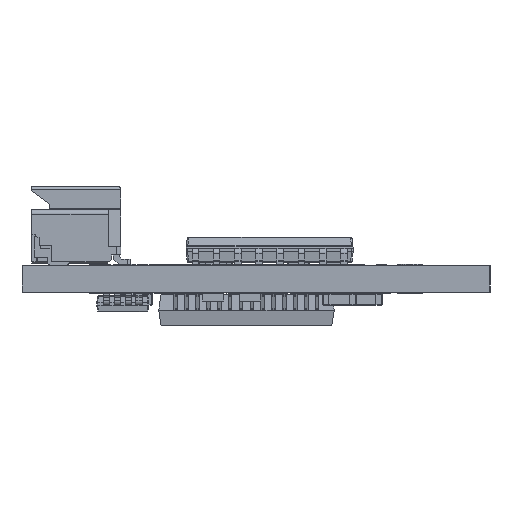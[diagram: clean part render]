
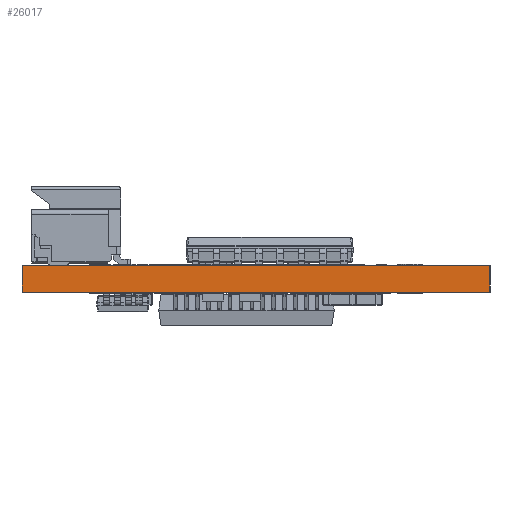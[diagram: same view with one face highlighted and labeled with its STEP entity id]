
A CAD part, left-side view. The second image highlights one B-rep face of the part: STEP entity #26017.
In plain terms, the highlighted planar face has unit normal (-1, 0, 0).
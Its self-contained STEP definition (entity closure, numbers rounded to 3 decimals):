
#8357 = VERTEX_POINT ( 'NONE', #172765 ) ;
#12513 = VECTOR ( 'NONE', #169511, 1000. ) ;
#15463 = VERTEX_POINT ( 'NONE', #68095 ) ;
#26017 = ADVANCED_FACE ( 'NONE', ( #51802 ), #28117, .T. ) ;
#28117 = PLANE ( 'NONE',  #36166 ) ;
#31217 = VECTOR ( 'NONE', #141568, 1000. ) ;
#34424 = EDGE_LOOP ( 'NONE', ( #108764, #120645, #36845, #91816 ) ) ;
#34426 = CARTESIAN_POINT ( 'NONE',  ( -14.013, 0.003, -1.612 ) ) ;
#35564 = DIRECTION ( 'NONE',  ( 0., 0., 1. ) ) ;
#36166 = AXIS2_PLACEMENT_3D ( 'NONE', #162072, #55474, #81807 ) ;
#36845 = ORIENTED_EDGE ( 'NONE', *, *, #171523, .T. ) ;
#37242 = CARTESIAN_POINT ( 'NONE',  ( -14.013, 0.003, -0.012 ) ) ;
#45650 = VECTOR ( 'NONE', #35564, 1000. ) ;
#51802 = FACE_OUTER_BOUND ( 'NONE', #34424, .T. ) ;
#52150 = VECTOR ( 'NONE', #113268, 1000. ) ;
#55474 = DIRECTION ( 'NONE',  ( -1., 0., 0. ) ) ;
#64139 = EDGE_CURVE ( 'NONE', #8357, #15463, #146467, .T. ) ;
#68095 = CARTESIAN_POINT ( 'NONE',  ( -14.013, -13.997, -0.012 ) ) ;
#68185 = EDGE_CURVE ( 'NONE', #147812, #148278, #98184, .T. ) ;
#73831 = CARTESIAN_POINT ( 'NONE',  ( -14.013, 14.003, -1.612 ) ) ;
#81807 = DIRECTION ( 'NONE',  ( 0., 0., -1. ) ) ;
#91816 = ORIENTED_EDGE ( 'NONE', *, *, #64139, .F. ) ;
#98184 = LINE ( 'NONE', #34426, #31217 ) ;
#108764 = ORIENTED_EDGE ( 'NONE', *, *, #134697, .T. ) ;
#113268 = DIRECTION ( 'NONE',  ( 0., 0., -1. ) ) ;
#113855 = CARTESIAN_POINT ( 'NONE',  ( -14.013, 14.003, -0.812 ) ) ;
#120645 = ORIENTED_EDGE ( 'NONE', *, *, #68185, .T. ) ;
#127655 = LINE ( 'NONE', #113855, #52150 ) ;
#130387 = CARTESIAN_POINT ( 'NONE',  ( -14.013, -13.997, -0.812 ) ) ;
#134697 = EDGE_CURVE ( 'NONE', #8357, #147812, #127655, .T. ) ;
#141568 = DIRECTION ( 'NONE',  ( 0., -1., 0. ) ) ;
#146467 = LINE ( 'NONE', #37242, #12513 ) ;
#147812 = VERTEX_POINT ( 'NONE', #73831 ) ;
#148278 = VERTEX_POINT ( 'NONE', #154964 ) ;
#152480 = LINE ( 'NONE', #130387, #45650 ) ;
#154964 = CARTESIAN_POINT ( 'NONE',  ( -14.013, -13.997, -1.612 ) ) ;
#162072 = CARTESIAN_POINT ( 'NONE',  ( -14.013, 14.003, -0.012 ) ) ;
#169511 = DIRECTION ( 'NONE',  ( 0., -1., 0. ) ) ;
#171523 = EDGE_CURVE ( 'NONE', #148278, #15463, #152480, .T. ) ;
#172765 = CARTESIAN_POINT ( 'NONE',  ( -14.013, 14.003, -0.012 ) ) ;
